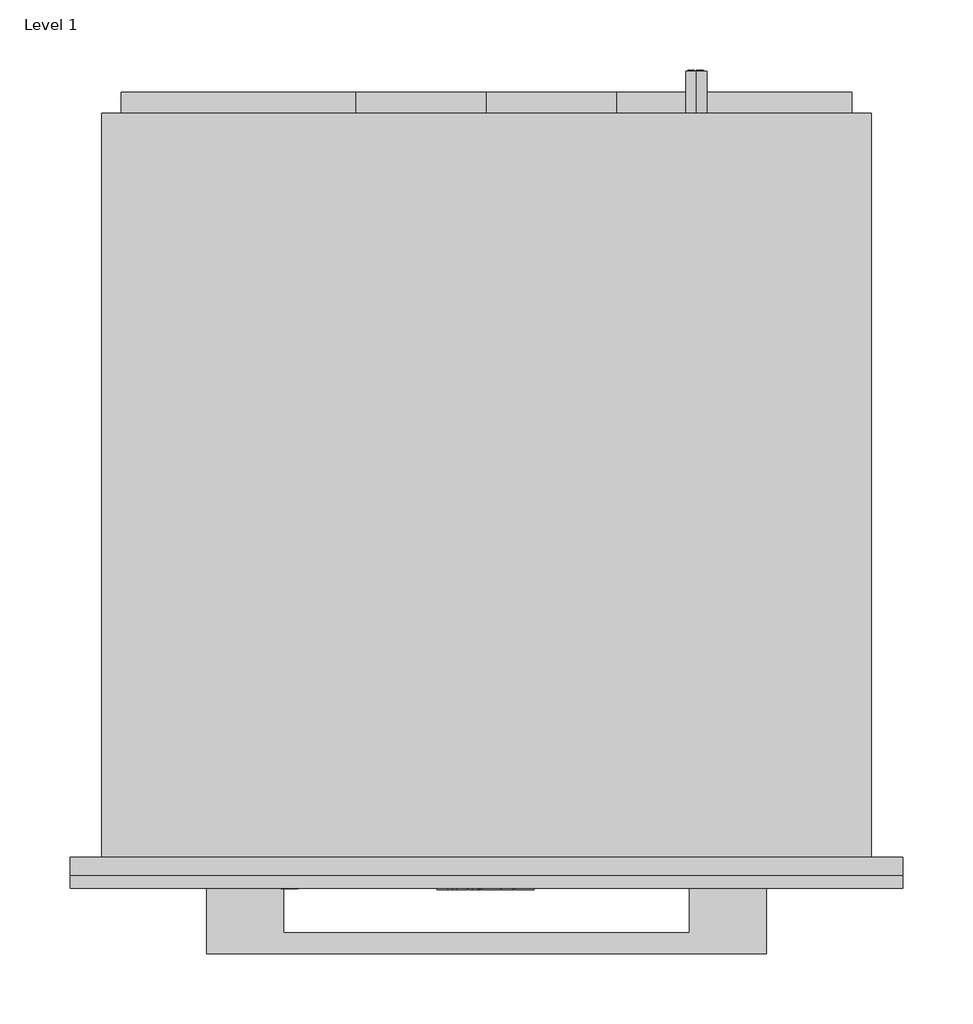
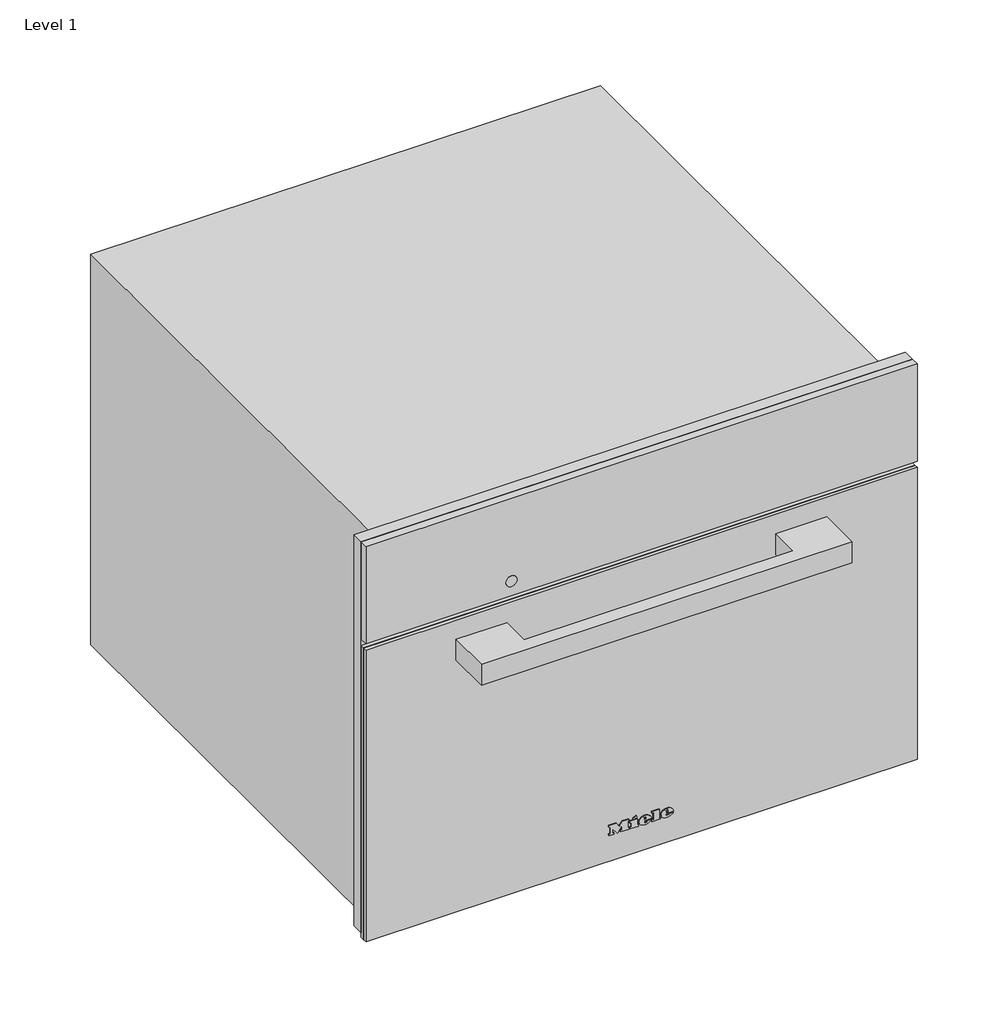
# One storey: 1 proxy.
"""IFC4 building model written with IfcOpenShell, lengths in millimetres."""

from ifc_helpers import new_model, si_unit, origin, place, context, project, spatial, transform, mapped, element, save
from components import specialty_equipment_6ac7eda2

model = new_model("IFC4")

# Units and contexts
model_context = context("Model", 3, world=origin())
ifc_project = project(units=[si_unit("LENGTHUNIT", "METRE", prefix="MILLI")], contexts=[model_context])

# Site, building, storey
site = spatial("IfcSite", under=ifc_project)
building = spatial("IfcBuilding", under=site)
storey = spatial("IfcBuildingStorey", under=building, Name="Level 1", Elevation=0.0)

# Proxy
placement = place(None, origin())
specialty_equipment_shape = specialty_equipment_6ac7eda2(model_context)
element("IfcBuildingElementProxy", 1, Name="11134270_I_DG7440_GRGR : 23744030_I_11134270_DG7440_GRGR", ObjectType="11134270_I_DG7440_GRGR : 23744030_I_11134270_DG7440_GRGR", at=placement, inside=storey, context=model_context, shape_type="MappedRepresentation", body=[
    mapped(specialty_equipment_shape, transform((0.0, 0.0, 0.0), x_axis=(1.0, 0.0, 0.0), y_axis=(0.0, 1.0, 0.0), z_axis=(0.0, 0.0, 1.0))),
])

save(model, "model.ifc")
